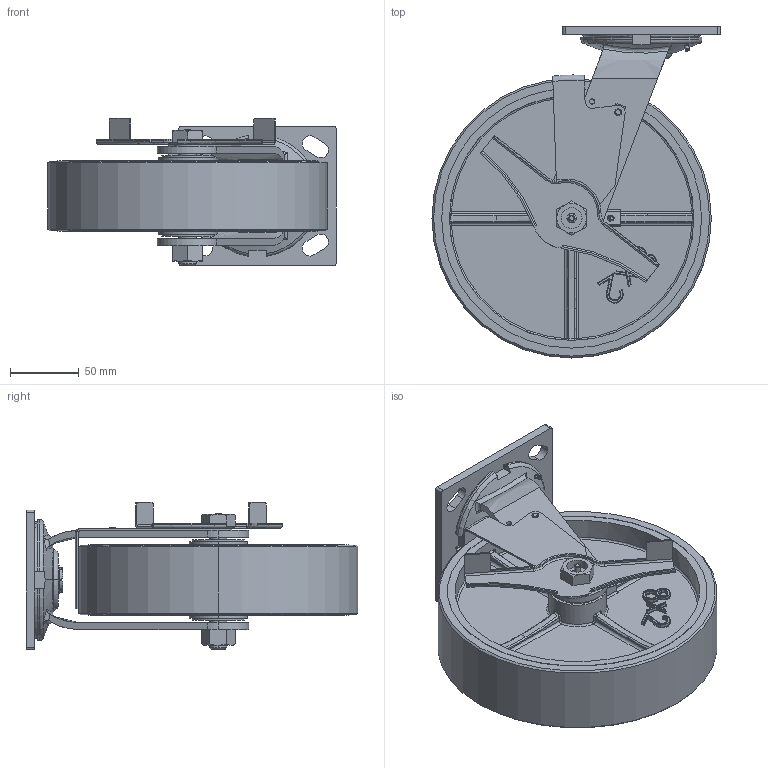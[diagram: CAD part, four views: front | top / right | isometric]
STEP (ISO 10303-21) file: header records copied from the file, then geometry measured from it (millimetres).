
FILE_DESCRIPTION (( 'STEP AP214' ), '1' );
FILE_NAME ('SCC-30CS820-PUR-TLB-GB 3D STEP.STEP', '2021-08-13T14:20:23', ( '' ), ( '' ), 'SwSTEP 2.0', 'SolidWorks 2015', '' );
FILE_SCHEMA (( 'AUTOMOTIVE_DESIGN' ));
Length unit declared in the file: inch
Products named in the file (1): SCC-30CS820-PUR-TLB-GB 3D STEP
Bounding box: 209.55 x 241.3 x 107.31 mm (x, y, z)
Volume: 1140039.1 mm3; surface area: 203847.1 mm2
Topology: 1 solids, 1 shells, 841 faces, 2018 edges, 1202 vertices
Faces by surface type: cylinder 270, plane 206, bspline 170, torus 122, sphere 46, cone 27
Entity records: 40906 total; most frequent: CARTESIAN_POINT 15650, ORIENTED_EDGE 3984, DIRECTION 3814, EDGE_CURVE 1992, AXIS2_PLACEMENT_3D 1566, VERTEX_POINT 1190, CIRCLE 894, EDGE_LOOP 892
